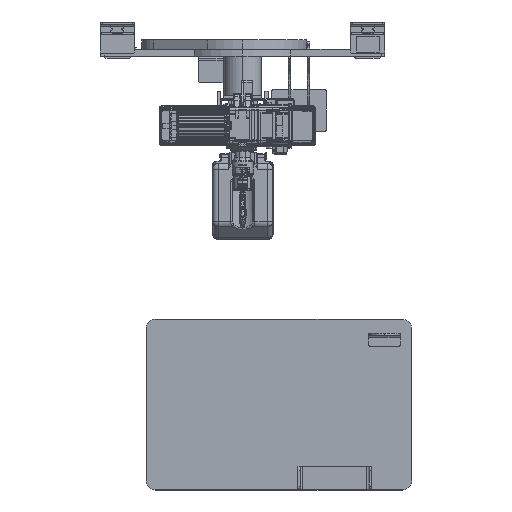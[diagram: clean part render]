
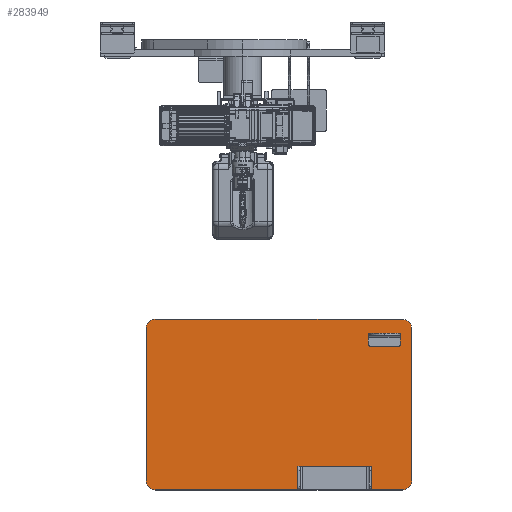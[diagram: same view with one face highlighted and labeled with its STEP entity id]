
A CAD part, top view. The second image highlights one B-rep face of the part: STEP entity #283949.
In plain terms, the highlighted planar face has unit normal (0, 0, 1).
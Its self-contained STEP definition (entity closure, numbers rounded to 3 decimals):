
#1054 = EDGE_CURVE ( 'NONE', #148090, #191458, #229732, .T. ) ;
#9631 = EDGE_LOOP ( 'NONE', ( #71745, #196269, #230578, #199236, #35138, #69808, #233833, #255437 ) ) ;
#12157 = DIRECTION ( 'NONE',  ( 0., 0., 1. ) ) ;
#14881 = VERTEX_POINT ( 'NONE', #255186 ) ;
#19834 = EDGE_CURVE ( 'NONE', #14881, #240608, #32360, .T. ) ;
#19987 = AXIS2_PLACEMENT_3D ( 'NONE', #205510, #68201, #292099 ) ;
#21942 = LINE ( 'NONE', #42857, #94851 ) ;
#27281 = VECTOR ( 'NONE', #74996, 1000. ) ;
#30577 = VERTEX_POINT ( 'NONE', #258710 ) ;
#31675 = LINE ( 'NONE', #146548, #27281 ) ;
#32360 = CIRCLE ( 'NONE', #199189, 25. ) ;
#34563 = DIRECTION ( 'NONE',  ( 1., 0., 0. ) ) ;
#35138 = ORIENTED_EDGE ( 'NONE', *, *, #262475, .T. ) ;
#37032 = DIRECTION ( 'NONE',  ( 1., 0., 0. ) ) ;
#42857 = CARTESIAN_POINT ( 'NONE',  ( 445.678, 1260., 91. ) ) ;
#51226 = VERTEX_POINT ( 'NONE', #74224 ) ;
#52965 = VECTOR ( 'NONE', #209041, 1000. ) ;
#68201 = DIRECTION ( 'NONE',  ( 0., 0., 1. ) ) ;
#69808 = ORIENTED_EDGE ( 'NONE', *, *, #19834, .T. ) ;
#70838 = DIRECTION ( 'NONE',  ( 0., 0., 1. ) ) ;
#71745 = ORIENTED_EDGE ( 'NONE', *, *, #144125, .T. ) ;
#74224 = CARTESIAN_POINT ( 'NONE',  ( -229.322, 810., 91. ) ) ;
#74996 = DIRECTION ( 'NONE',  ( 0., -1., 0. ) ) ;
#80850 = CARTESIAN_POINT ( 'NONE',  ( 95.678, 1035., 91. ) ) ;
#94851 = VECTOR ( 'NONE', #157753, 1000. ) ;
#101438 = LINE ( 'NONE', #167137, #52965 ) ;
#103994 = CARTESIAN_POINT ( 'NONE',  ( 445.678, 835., 91. ) ) ;
#104046 = CARTESIAN_POINT ( 'NONE',  ( -229.322, 1260., 91. ) ) ;
#117184 = VERTEX_POINT ( 'NONE', #262876 ) ;
#122926 = EDGE_CURVE ( 'NONE', #51226, #148090, #184067, .T. ) ;
#126271 = CARTESIAN_POINT ( 'NONE',  ( -229.322, 835., 91. ) ) ;
#137782 = CARTESIAN_POINT ( 'NONE',  ( -254.322, 810., 91. ) ) ;
#144125 = EDGE_CURVE ( 'NONE', #30577, #117184, #31675, .T. ) ;
#146548 = CARTESIAN_POINT ( 'NONE',  ( -254.322, 1260., 91. ) ) ;
#148090 = VERTEX_POINT ( 'NONE', #191662 ) ;
#152640 = EDGE_CURVE ( 'NONE', #240608, #249056, #101438, .T. ) ;
#157753 = DIRECTION ( 'NONE',  ( 0., 1., 0. ) ) ;
#167137 = CARTESIAN_POINT ( 'NONE',  ( -254.322, 1260., 91. ) ) ;
#180558 = AXIS2_PLACEMENT_3D ( 'NONE', #80850, #12157, #34563 ) ;
#184067 = LINE ( 'NONE', #137782, #191182 ) ;
#184958 = EDGE_CURVE ( 'NONE', #249056, #30577, #234496, .T. ) ;
#185730 = DIRECTION ( 'NONE',  ( 0., 0., 1. ) ) ;
#189327 = EDGE_CURVE ( 'NONE', #117184, #51226, #283006, .T. ) ;
#191182 = VECTOR ( 'NONE', #204960, 1000. ) ;
#191458 = VERTEX_POINT ( 'NONE', #103994 ) ;
#191662 = CARTESIAN_POINT ( 'NONE',  ( 420.678, 810., 91. ) ) ;
#196269 = ORIENTED_EDGE ( 'NONE', *, *, #189327, .T. ) ;
#196400 = DIRECTION ( 'NONE',  ( 0., 0., 1. ) ) ;
#199189 = AXIS2_PLACEMENT_3D ( 'NONE', #208083, #185730, #212463 ) ;
#199236 = ORIENTED_EDGE ( 'NONE', *, *, #1054, .T. ) ;
#204960 = DIRECTION ( 'NONE',  ( 1., 0., 0. ) ) ;
#205510 = CARTESIAN_POINT ( 'NONE',  ( -229.322, 1235., 91. ) ) ;
#208083 = CARTESIAN_POINT ( 'NONE',  ( 420.678, 1235., 91. ) ) ;
#209041 = DIRECTION ( 'NONE',  ( -1., 0., 0. ) ) ;
#212463 = DIRECTION ( 'NONE',  ( 1., 0., 0. ) ) ;
#218125 = FACE_OUTER_BOUND ( 'NONE', #9631, .T. ) ;
#229732 = CIRCLE ( 'NONE', #282092, 25. ) ;
#230578 = ORIENTED_EDGE ( 'NONE', *, *, #122926, .T. ) ;
#233833 = ORIENTED_EDGE ( 'NONE', *, *, #152640, .T. ) ;
#234496 = CIRCLE ( 'NONE', #19987, 25. ) ;
#240608 = VERTEX_POINT ( 'NONE', #282103 ) ;
#244396 = CARTESIAN_POINT ( 'NONE',  ( 420.678, 835., 91. ) ) ;
#249056 = VERTEX_POINT ( 'NONE', #104046 ) ;
#255186 = CARTESIAN_POINT ( 'NONE',  ( 445.678, 1235., 91. ) ) ;
#255437 = ORIENTED_EDGE ( 'NONE', *, *, #184958, .T. ) ;
#258710 = CARTESIAN_POINT ( 'NONE',  ( -254.322, 1235., 91. ) ) ;
#262475 = EDGE_CURVE ( 'NONE', #191458, #14881, #21942, .T. ) ;
#262876 = CARTESIAN_POINT ( 'NONE',  ( -254.322, 835., 91. ) ) ;
#263502 = DIRECTION ( 'NONE',  ( 1., 0., 0. ) ) ;
#278148 = AXIS2_PLACEMENT_3D ( 'NONE', #126271, #196400, #263502 ) ;
#282092 = AXIS2_PLACEMENT_3D ( 'NONE', #244396, #70838, #37032 ) ;
#282103 = CARTESIAN_POINT ( 'NONE',  ( 420.678, 1260., 91. ) ) ;
#283006 = CIRCLE ( 'NONE', #278148, 25. ) ;
#283949 = ADVANCED_FACE ( 'NONE', ( #218125 ), #285243, .T. ) ;
#285243 = PLANE ( 'NONE',  #180558 ) ;
#292099 = DIRECTION ( 'NONE',  ( 1., 0., 0. ) ) ;
